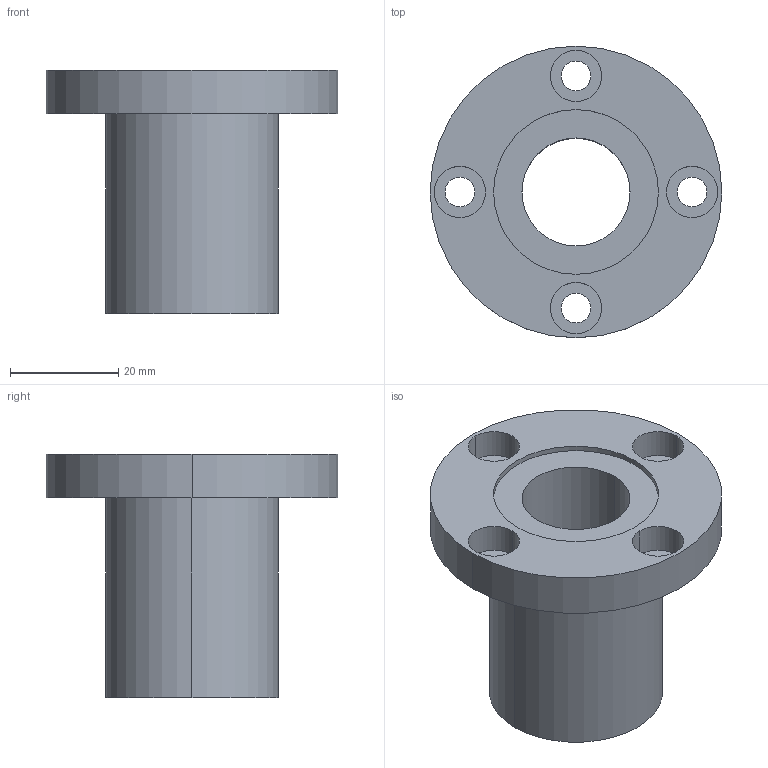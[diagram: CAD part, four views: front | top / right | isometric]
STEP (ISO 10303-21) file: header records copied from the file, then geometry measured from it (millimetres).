
FILE_DESCRIPTION((''),'2;1');
FILE_NAME('C:\Documents and Settings\ｿﾀﾀ蠑ｷ1\ｹﾙﾅﾁ ﾈｭｸ饅\ｺﾎﾇｰﾆﾄﾀﾏ\ﾁｦﾇｰ\LMEF__UU\LMEF20UU.stp','2005-06-15T10:50:37',('ｿﾀﾀ蠑ｷ1'),(''),'Autodesk Inventor 9','Autodesk Inventor 9','');
FILE_SCHEMA(('AUTOMOTIVE_DESIGN { 1 0 10303 214 1 1 1 1 }'));
Length unit declared in the file: millimetre
Products named in the file (1): LMEF__(L)
Bounding box: 54 x 54 x 45 mm (x, y, z)
Volume: 31330.9 mm3; surface area: 12556.5 mm2
Topology: 1 solids, 1 shells, 35 faces, 78 edges, 52 vertices
Faces by surface type: bspline 20, cylinder 10, plane 5
Entity records: 1255 total; most frequent: CARTESIAN_POINT 450, DIRECTION 162, ORIENTED_EDGE 156, EDGE_CURVE 78, AXIS2_PLACEMENT_3D 68, VERTEX_POINT 52, CIRCLE 52, EDGE_LOOP 52
